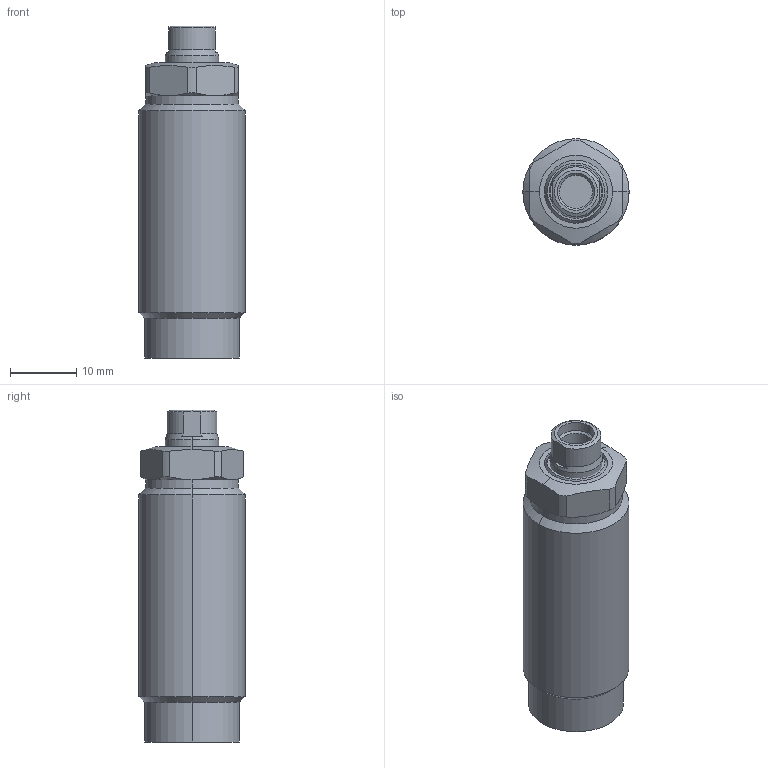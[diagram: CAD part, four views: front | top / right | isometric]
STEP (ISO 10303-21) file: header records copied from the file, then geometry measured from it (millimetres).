
FILE_DESCRIPTION((' '),'2;1');
FILE_NAME( 'TGP16-AL.x_t.stp', '2025-02-10T16:03:49', (' '), ('--- Datakit www.datakit.com---'), ' Datakit CrossCadWare V2024.1 Dec 21 2023', 'Mastercam 2025', ' ');
FILE_SCHEMA(('AUTOMOTIVE_DESIGN { 1 0 10303 214 1 1 1 1 }'));
Length unit declared in the file: millimetre
Products named in the file (1): TGP16-AL
Bounding box: 16 x 16 x 50 mm (x, y, z)
Volume: 9107.7 mm3; surface area: 3546.9 mm2
Topology: 2 solids, 2 shells, 77 faces, 176 edges, 110 vertices
Faces by surface type: cylinder 30, cone 22, plane 21, torus 4
Entity records: 2296 total; most frequent: CARTESIAN_POINT 508, DIRECTION 396, ORIENTED_EDGE 352, EDGE_CURVE 176, AXIS2_PLACEMENT_3D 170, VERTEX_POINT 110, CIRCLE 92, EDGE_LOOP 84
